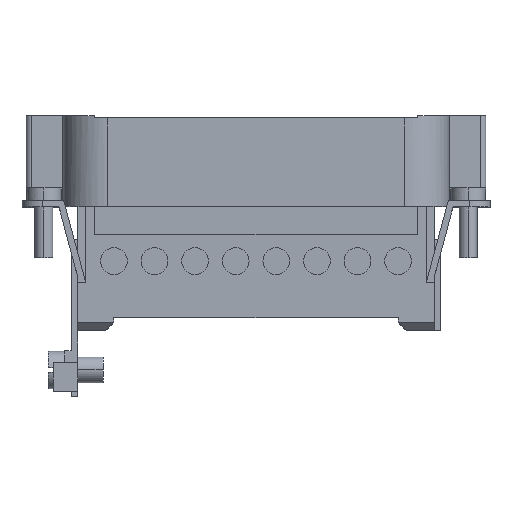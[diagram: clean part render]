
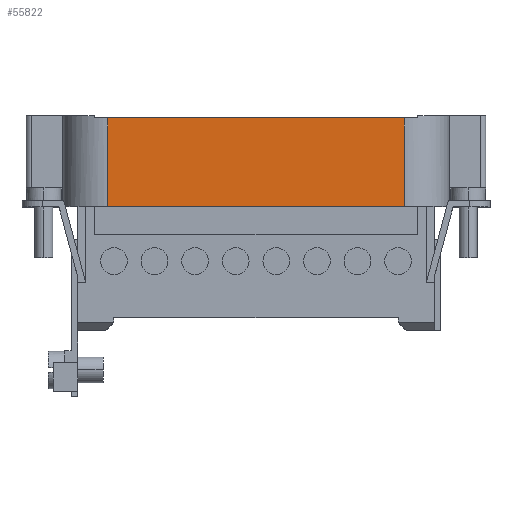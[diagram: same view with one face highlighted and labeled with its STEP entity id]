
A CAD part, top view. The second image highlights one B-rep face of the part: STEP entity #55822.
In plain terms, the highlighted planar face has unit normal (0, 0, 1).
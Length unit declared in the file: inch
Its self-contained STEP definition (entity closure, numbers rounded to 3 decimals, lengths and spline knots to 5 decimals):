
#829 = CARTESIAN_POINT ( 'NONE',  ( -0.9125, 0.764, 0.45 ) ) ;
#7562 = EDGE_CURVE ( 'NONE', #46773, #33532, #32287, .T. ) ;
#9728 = CARTESIAN_POINT ( 'NONE',  ( -0.9925, 0.764, 0.45 ) ) ;
#11516 = ORIENTED_EDGE ( 'NONE', *, *, #7562, .F. ) ;
#11810 = CARTESIAN_POINT ( 'NONE',  ( -1.41732, 1.324, 0.45 ) ) ;
#11886 = ORIENTED_EDGE ( 'NONE', *, *, #41818, .F. ) ;
#14821 = ORIENTED_EDGE ( 'NONE', *, *, #33294, .F. ) ;
#15837 = DIRECTION ( 'NONE',  ( 1., 0., 0. ) ) ;
#16280 = VECTOR ( 'NONE', #32344, 39.37008 ) ;
#17876 = DIRECTION ( 'NONE',  ( -1., 0., 0. ) ) ;
#20517 = LINE ( 'NONE', #9728, #65664 ) ;
#24251 = CARTESIAN_POINT ( 'NONE',  ( -0.9125, 1.309, 0.45 ) ) ;
#26232 = EDGE_CURVE ( 'NONE', #63098, #45094, #20517, .T. ) ;
#26506 = CARTESIAN_POINT ( 'NONE',  ( -1.41732, 1.309, 0.45 ) ) ;
#27197 = CARTESIAN_POINT ( 'NONE',  ( 0.9125, 0.879, 0.45 ) ) ;
#29313 = CARTESIAN_POINT ( 'NONE',  ( 0.9125, 1.309, 0.45 ) ) ;
#29927 = CARTESIAN_POINT ( 'NONE',  ( -0.9125, 0.879, 0.45 ) ) ;
#32287 = LINE ( 'NONE', #26506, #16280 ) ;
#32344 = DIRECTION ( 'NONE',  ( 1., 0., 0. ) ) ;
#33275 = DIRECTION ( 'NONE',  ( 0., -1., 0. ) ) ;
#33294 = EDGE_CURVE ( 'NONE', #63098, #46773, #53836, .T. ) ;
#33532 = VERTEX_POINT ( 'NONE', #29313 ) ;
#33775 = AXIS2_PLACEMENT_3D ( 'NONE', #11810, #53939, #17876 ) ;
#41512 = PLANE ( 'NONE',  #33775 ) ;
#41818 = EDGE_CURVE ( 'NONE', #33532, #45094, #59943, .T. ) ;
#45094 = VERTEX_POINT ( 'NONE', #74291 ) ;
#46054 = ORIENTED_EDGE ( 'NONE', *, *, #26232, .T. ) ;
#46773 = VERTEX_POINT ( 'NONE', #24251 ) ;
#53836 = LINE ( 'NONE', #29927, #67877 ) ;
#53939 = DIRECTION ( 'NONE',  ( 0., 0., -1. ) ) ;
#55822 = ADVANCED_FACE ( 'NONE', ( #58113 ), #41512, .F. ) ;
#58113 = FACE_OUTER_BOUND ( 'NONE', #66633, .T. ) ;
#59943 = LINE ( 'NONE', #27197, #75903 ) ;
#63098 = VERTEX_POINT ( 'NONE', #829 ) ;
#65664 = VECTOR ( 'NONE', #15837, 39.37008 ) ;
#66633 = EDGE_LOOP ( 'NONE', ( #11886, #11516, #14821, #46054 ) ) ;
#67877 = VECTOR ( 'NONE', #77986, 39.37008 ) ;
#74291 = CARTESIAN_POINT ( 'NONE',  ( 0.9125, 0.764, 0.45 ) ) ;
#75903 = VECTOR ( 'NONE', #33275, 39.37008 ) ;
#77986 = DIRECTION ( 'NONE',  ( 0., 1., 0. ) ) ;
